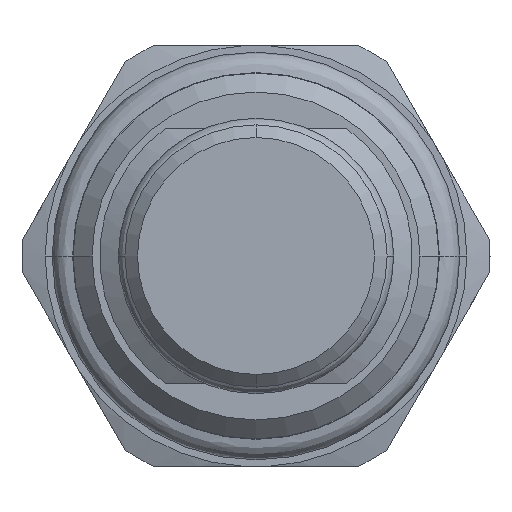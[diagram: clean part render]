
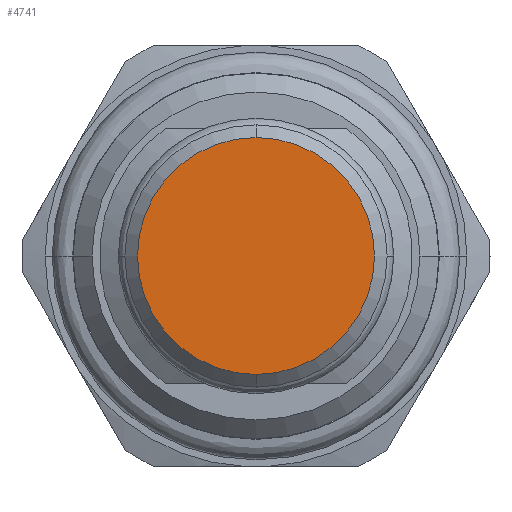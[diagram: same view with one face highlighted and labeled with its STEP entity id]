
A CAD part, front view. The second image highlights one B-rep face of the part: STEP entity #4741.
In plain terms, the highlighted planar face has unit normal (0, -1, 0).
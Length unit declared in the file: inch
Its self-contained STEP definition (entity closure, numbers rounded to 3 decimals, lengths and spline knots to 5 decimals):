
#2052=CARTESIAN_POINT('',(0.,-1.2535,0.));
#2053=DIRECTION('',(0.,1.,0.));
#2054=DIRECTION('',(0.,0.,-1.));
#2055=AXIS2_PLACEMENT_3D('',#2052,#2053,#2054);
#2062=CARTESIAN_POINT('',(0.,-1.2535,0.));
#2063=DIRECTION('',(0.,1.,0.));
#2064=DIRECTION('',(0.,0.,1.));
#2065=AXIS2_PLACEMENT_3D('',#2062,#2063,#2064);
#2177=CARTESIAN_POINT('',(0.,-1.2535,-0.281));
#2178=CARTESIAN_POINT('',(0.,-1.2535,0.281));
#2179=VERTEX_POINT('',#2177);
#2180=VERTEX_POINT('',#2178);
#4731=CARTESIAN_POINT('',(0.,-1.2535,0.));
#4732=DIRECTION('',(0.,-1.,0.));
#4733=DIRECTION('',(0.,0.,-1.));
#4734=AXIS2_PLACEMENT_3D('',#4731,#4732,#4733);
#4735=PLANE('',#4734);
#4737=ORIENTED_EDGE('',*,*,#4736,.T.);
#4738=ORIENTED_EDGE('',*,*,#4721,.T.);
#4739=EDGE_LOOP('',(#4737,#4738));
#4740=FACE_OUTER_BOUND('',#4739,.F.);
#4741=ADVANCED_FACE('',(#4740),#4735,.T.);
#2056=CIRCLE('',#2055,0.281);
#2066=CIRCLE('',#2065,0.281);
#4721=EDGE_CURVE('',#2179,#2180,#2056,.T.);
#4736=EDGE_CURVE('',#2180,#2179,#2066,.T.);
